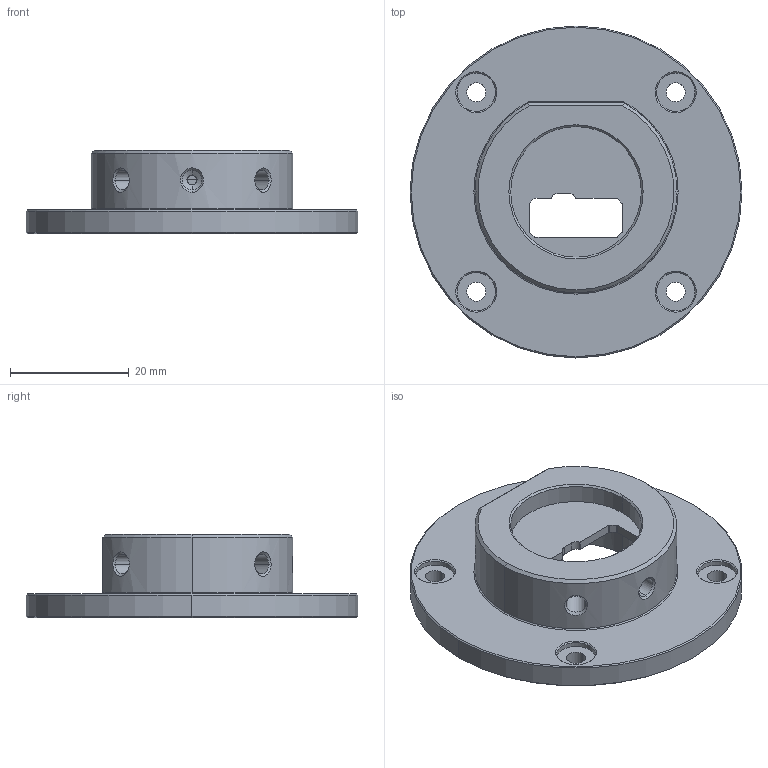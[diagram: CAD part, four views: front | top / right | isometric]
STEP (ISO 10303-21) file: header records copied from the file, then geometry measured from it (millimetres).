
FILE_DESCRIPTION (( 'STEP AP214' ), '1' );
FILE_NAME ('230101218201_楊擘-P0.STEP', '2026-07-24T12:29:36', ( '1' ), ( '' ), 'SwSTEP 2.0', 'SolidWorks 2022', '' );
FILE_SCHEMA (( 'AUTOMOTIVE_DESIGN' ));
Length unit declared in the file: millimetre
Products named in the file (1): 230101218201_法兰-P0
Bounding box: 55.9 x 55.9 x 14 mm (x, y, z)
Volume: 11342 mm3; surface area: 8200.2 mm2
Topology: 1 solids, 1 shells, 157 faces, 378 edges, 234 vertices
Faces by surface type: cylinder 85, cone 39, plane 30, torus 3
Entity records: 6095 total; most frequent: CARTESIAN_POINT 1222, DIRECTION 852, ORIENTED_EDGE 756, EDGE_CURVE 378, AXIS2_PLACEMENT_3D 350, VERTEX_POINT 234, CIRCLE 192, EDGE_LOOP 188
